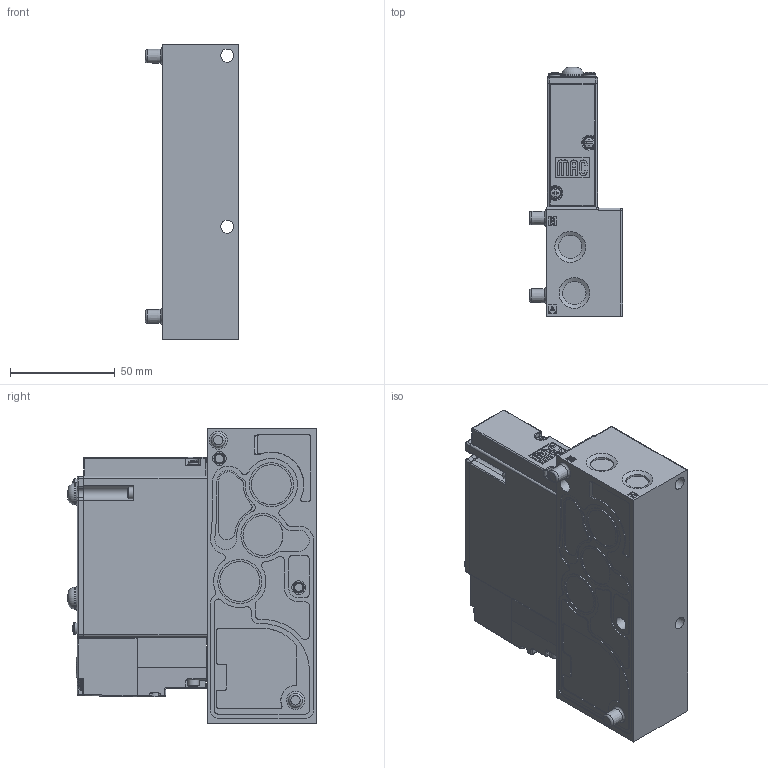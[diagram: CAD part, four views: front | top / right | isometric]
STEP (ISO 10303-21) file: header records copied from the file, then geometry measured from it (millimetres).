
FILE_DESCRIPTION (( 'STEP AP214' ), '1' );
FILE_NAME ('92A-AAA-B3J-DM-DXXP-YZZ.STEP', '2019-07-05T14:59:58', ( 'user' ), ( '' ), 'SwSTEP 2.0', 'SolidWorks 2014', '' );
FILE_SCHEMA (( 'AUTOMOTIVE_DESIGN' ));
Length unit declared in the file: millimetre
Products named in the file (6): 92-OVERRIDE-1; 92-OPERATOR-DXXP-YDM; 92-PILOT-DM; 92-BODY-AAA; 92-BASE-B3J; 92A-AAA-B3J-DM-DXXP-YZZ
Assembly tree (5 placements, depth 2):
  92A-AAA-B3J-DM-DXXP-YZZ
    92-BASE-B3J
    92-BODY-AAA
    92-PILOT-DM
    92-OPERATOR-DXXP-YDM
    92-OVERRIDE-1
Bounding box: 44.5 x 118.6 x 141 mm (x, y, z)
Volume: 409198.7 mm3; surface area: 78805.4 mm2
Topology: 27 solids, 31 shells, 2230 faces, 5709 edges, 3708 vertices
Faces by surface type: plane 1197, cylinder 664, cone 167, bspline 113, torus 49, sphere 40
Full cylindrical faces by diameter (mm): 0.01 x2, 0.72 x1, 0.74 x1, 0.85 x1, 0.95 x2, 1 x1, 2 x2, 2.2 x2, 2.4 x2, 2.5 x2, 2.6 x2, 2.7 x1, 2.79 x4, 3 x10, 3.15 x2, 3.25 x2, 3.3 x4, 3.35 x2, 3.6 x1, 4.775 x2, 5 x35, 5.1 x1, 5.25 x2, 5.5 x8, 5.6 x1, 6.185 x2, 6.22 x1, 6.6 x2, 6.8 x2, 6.92 x1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
Entity records: 98633 total; most frequent: CARTESIAN_POINT 21682, ORIENTED_EDGE 10768, DIRECTION 10670, EDGE_CURVE 5384, AXIS2_PLACEMENT_3D 3652, VERTEX_POINT 3608, LINE 3366, VECTOR 3366
